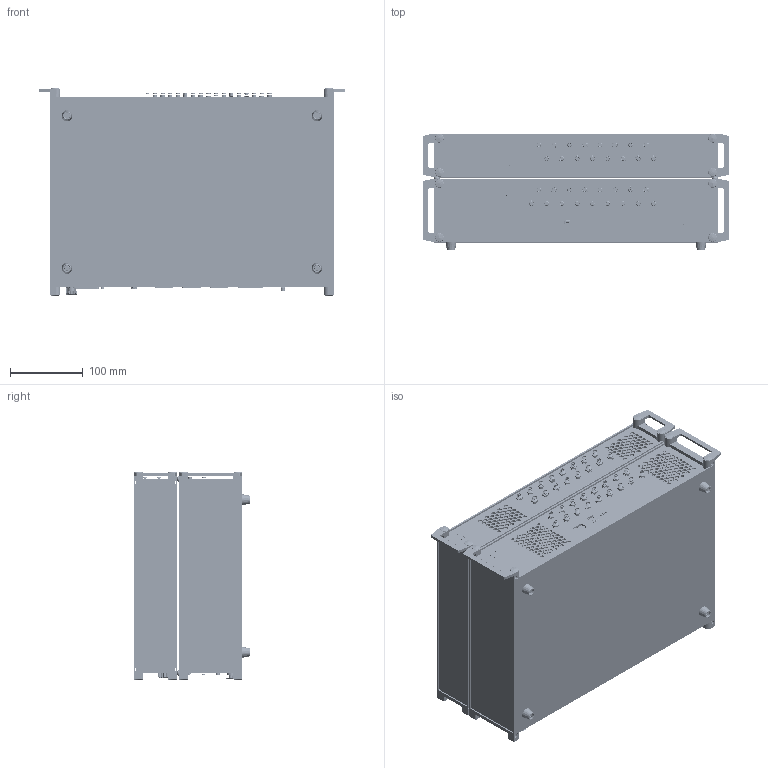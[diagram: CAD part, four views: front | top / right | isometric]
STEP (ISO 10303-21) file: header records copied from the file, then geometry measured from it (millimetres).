
FILE_DESCRIPTION (( 'STEP AP203' ), '1' );
FILE_NAME ('930047_PQ.077.6000.0016.12_MH160_M+X1.STEP', '2026-06-01T10:40:15', ( '' ), ( '' ), 'SwSTEP 2.0', 'SolidWorks 2025', '' );
FILE_SCHEMA (( 'CONFIG_CONTROL_DESIGN' ));
Products named in the file (1): 930047_PQ.077.6000.0016.12_MH160_M+X1
Bounding box: 422.5 x 160.6 x 286.3 mm (x, y, z)
Surface area: 782113.3 mm2 (no closed solid volume)
Topology: 0 solids, 705 shells, 10356 faces, 35666 edges, 25536 vertices
Faces by surface type: plane 5695, cylinder 3547, cone 825, bspline 238, torus 27, sphere 24
Full cylindrical faces by diameter (mm): 1 x20, 1.3 x8, 1.5 x9, 1.6 x1, 2.2 x5, 2.261 x4, 2.65 x3, 3 x3, 3.2 x4, 3.275 x1, 3.4 x1, 3.6 x5, 3.8 x22, 3.86 x6, 4.3 x1, 4.61 x37, 4.8 x26, 5 x9, 5.2 x4, 5.35 x37, 5.451 x101, 5.5 x7, 5.7 x7, 5.725 x6, 6 x1, 6.26 x5, 7.5 x1, 7.7 x11, 8 x9, 9.4 x37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
Entity records: 384302 total; most frequent: CARTESIAN_POINT 87788, DIRECTION 61707, ORIENTED_EDGE 53072, EDGE_CURVE 34513, VERTEX_POINT 25193, LINE 21283, VECTOR 21283, AXIS2_PLACEMENT_3D 20212
